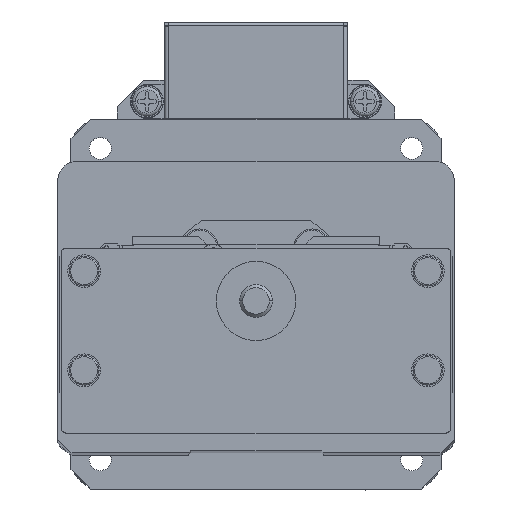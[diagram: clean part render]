
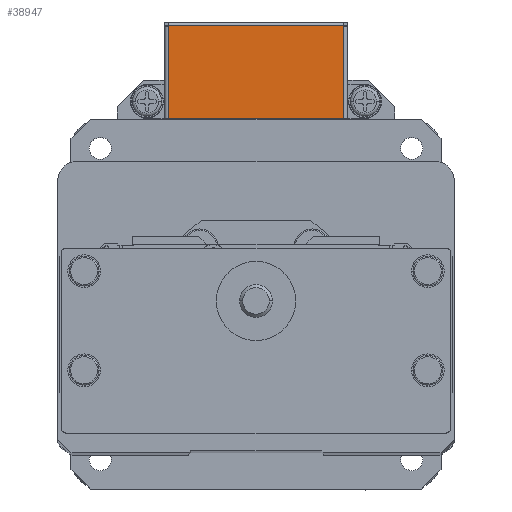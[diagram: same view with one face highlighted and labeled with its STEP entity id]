
A CAD part, top view. The second image highlights one B-rep face of the part: STEP entity #38947.
In plain terms, the highlighted planar face has unit normal (0, 0, 1).
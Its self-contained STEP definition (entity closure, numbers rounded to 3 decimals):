
#817 = CARTESIAN_POINT ( 'NONE',  ( -13.3, 28.2, -63.2 ) ) ;
#1926 = VERTEX_POINT ( 'NONE', #37700 ) ;
#1965 = DIRECTION ( 'NONE',  ( 0., -1., 0. ) ) ;
#3185 = ORIENTED_EDGE ( 'NONE', *, *, #54206, .F. ) ;
#4110 = FACE_OUTER_BOUND ( 'NONE', #37718, .T. ) ;
#4208 = EDGE_CURVE ( 'NONE', #1926, #30618, #31872, .T. ) ;
#4396 = CARTESIAN_POINT ( 'NONE',  ( -13.595, 42.2, -63.2 ) ) ;
#4505 = CARTESIAN_POINT ( 'NONE',  ( -13.3, 28.2, -63.2 ) ) ;
#5118 = CARTESIAN_POINT ( 'NONE',  ( 0., 28.2, -63.2 ) ) ;
#6168 = DIRECTION ( 'NONE',  ( 0., 1., 0. ) ) ;
#7880 = ORIENTED_EDGE ( 'NONE', *, *, #39816, .F. ) ;
#8070 = CARTESIAN_POINT ( 'NONE',  ( 0., 42.2, -63.2 ) ) ;
#8279 = VECTOR ( 'NONE', #47229, 1000. ) ;
#9709 = CARTESIAN_POINT ( 'NONE',  ( 13.3, 35.205, -63.2 ) ) ;
#13347 = VERTEX_POINT ( 'NONE', #4505 ) ;
#13397 = DIRECTION ( 'NONE',  ( 1., 0., 0. ) ) ;
#17377 = AXIS2_PLACEMENT_3D ( 'NONE', #817, #37856, #6168 ) ;
#17716 = VECTOR ( 'NONE', #31233, 1000. ) ;
#22741 = VECTOR ( 'NONE', #61690, 1000. ) ;
#24624 = LINE ( 'NONE', #4396, #52727 ) ;
#24915 = LINE ( 'NONE', #8070, #65412 ) ;
#25983 = CARTESIAN_POINT ( 'NONE',  ( -13.3, 42.2, -63.2 ) ) ;
#26858 = CARTESIAN_POINT ( 'NONE',  ( -13.3, 35.205, -63.2 ) ) ;
#27494 = VERTEX_POINT ( 'NONE', #25983 ) ;
#27883 = VECTOR ( 'NONE', #66872, 1000. ) ;
#29977 = ORIENTED_EDGE ( 'NONE', *, *, #34569, .F. ) ;
#30059 = CARTESIAN_POINT ( 'NONE',  ( -13.29, 35.205, -63.2 ) ) ;
#30113 = VERTEX_POINT ( 'NONE', #41926 ) ;
#30618 = VERTEX_POINT ( 'NONE', #52325 ) ;
#31233 = DIRECTION ( 'NONE',  ( 1., 0., 0. ) ) ;
#31872 = LINE ( 'NONE', #46938, #17716 ) ;
#32758 = CARTESIAN_POINT ( 'NONE',  ( 13.3, 28.2, -63.2 ) ) ;
#33749 = CARTESIAN_POINT ( 'NONE',  ( 13.29, 35.205, -63.2 ) ) ;
#34569 = EDGE_CURVE ( 'NONE', #30618, #30113, #61112, .T. ) ;
#37700 = CARTESIAN_POINT ( 'NONE',  ( -13.29, 42.21, -63.2 ) ) ;
#37718 = EDGE_LOOP ( 'NONE', ( #48764, #54436, #7880, #40223, #43891, #3185, #61251, #29977 ) ) ;
#37856 = DIRECTION ( 'NONE',  ( 0., 0., -1. ) ) ;
#38947 = ADVANCED_FACE ( 'NONE', ( #4110 ), #48251, .F. ) ;
#39816 = EDGE_CURVE ( 'NONE', #27494, #47225, #24624, .T. ) ;
#40223 = ORIENTED_EDGE ( 'NONE', *, *, #51670, .F. ) ;
#41413 = DIRECTION ( 'NONE',  ( 1., 0., 0. ) ) ;
#41890 = VERTEX_POINT ( 'NONE', #67129 ) ;
#41926 = CARTESIAN_POINT ( 'NONE',  ( 13.29, 42.2, -63.2 ) ) ;
#43891 = ORIENTED_EDGE ( 'NONE', *, *, #66093, .T. ) ;
#46184 = CARTESIAN_POINT ( 'NONE',  ( -13.29, 42.2, -63.2 ) ) ;
#46938 = CARTESIAN_POINT ( 'NONE',  ( 0., 42.21, -63.2 ) ) ;
#47225 = VERTEX_POINT ( 'NONE', #46184 ) ;
#47229 = DIRECTION ( 'NONE',  ( 1., 0., 0. ) ) ;
#48251 = PLANE ( 'NONE',  #17377 ) ;
#48733 = VECTOR ( 'NONE', #1965, 1000. ) ;
#48764 = ORIENTED_EDGE ( 'NONE', *, *, #4208, .F. ) ;
#48848 = LINE ( 'NONE', #5118, #8279 ) ;
#51670 = EDGE_CURVE ( 'NONE', #13347, #27494, #52932, .T. ) ;
#52325 = CARTESIAN_POINT ( 'NONE',  ( 13.29, 42.21, -63.2 ) ) ;
#52727 = VECTOR ( 'NONE', #41413, 1000. ) ;
#52932 = LINE ( 'NONE', #26858, #66981 ) ;
#54206 = EDGE_CURVE ( 'NONE', #41890, #63956, #68383, .T. ) ;
#54436 = ORIENTED_EDGE ( 'NONE', *, *, #54665, .F. ) ;
#54665 = EDGE_CURVE ( 'NONE', #47225, #1926, #63219, .T. ) ;
#58442 = DIRECTION ( 'NONE',  ( 0., 1., 0. ) ) ;
#59441 = EDGE_CURVE ( 'NONE', #30113, #41890, #24915, .T. ) ;
#61112 = LINE ( 'NONE', #33749, #48733 ) ;
#61251 = ORIENTED_EDGE ( 'NONE', *, *, #59441, .F. ) ;
#61690 = DIRECTION ( 'NONE',  ( 0., 1., 0. ) ) ;
#63219 = LINE ( 'NONE', #30059, #22741 ) ;
#63956 = VERTEX_POINT ( 'NONE', #32758 ) ;
#65412 = VECTOR ( 'NONE', #13397, 1000. ) ;
#66093 = EDGE_CURVE ( 'NONE', #13347, #63956, #48848, .T. ) ;
#66872 = DIRECTION ( 'NONE',  ( 0., -1., 0. ) ) ;
#66981 = VECTOR ( 'NONE', #58442, 1000. ) ;
#67129 = CARTESIAN_POINT ( 'NONE',  ( 13.3, 42.2, -63.2 ) ) ;
#68383 = LINE ( 'NONE', #9709, #27883 ) ;
